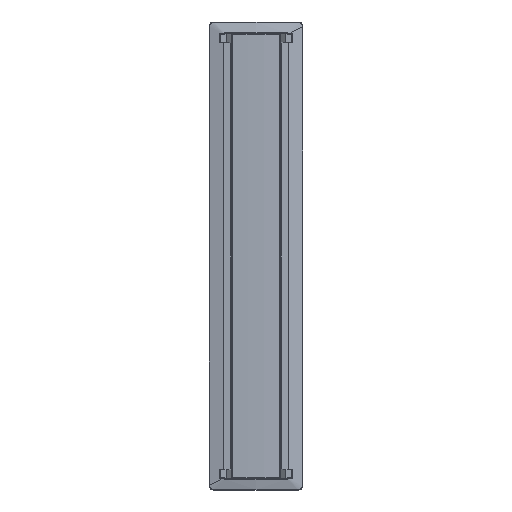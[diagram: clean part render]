
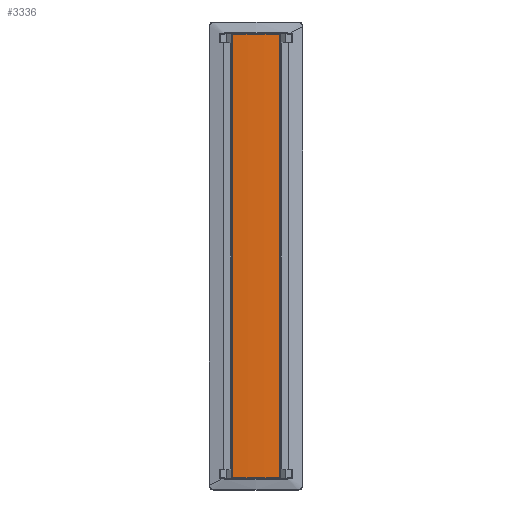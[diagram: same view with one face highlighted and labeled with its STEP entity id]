
A CAD part, front view. The second image highlights one B-rep face of the part: STEP entity #3336.
In plain terms, the highlighted cylindrical face has radius 2027 mm (diameter 4054 mm), a partial arc.
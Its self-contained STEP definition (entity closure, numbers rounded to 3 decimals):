
#28 = CARTESIAN_POINT ( 'NONE',  ( 101.516, 420.544, 3811.245 ) ) ;
#196 = EDGE_CURVE ( 'NONE', #1270, #2611, #1317, .T. ) ;
#783 = ORIENTED_EDGE ( 'NONE', *, *, #3356, .T. ) ;
#833 = VERTEX_POINT ( 'NONE', #4911 ) ;
#856 = DIRECTION ( 'NONE',  ( 0., 0., -1. ) ) ;
#1270 = VERTEX_POINT ( 'NONE', #3947 ) ;
#1317 = CIRCLE ( 'NONE', #3672, 2027. ) ;
#1359 = DIRECTION ( 'NONE',  ( 0., 0., -1. ) ) ;
#1790 = VECTOR ( 'NONE', #1359, 1000. ) ;
#1846 = CARTESIAN_POINT ( 'NONE',  ( 0., 2445., -947. ) ) ;
#1880 = CARTESIAN_POINT ( 'NONE',  ( 0., 2445., 3811.245 ) ) ;
#1994 = DIRECTION ( 'NONE',  ( 0., 0., -1. ) ) ;
#2221 = CARTESIAN_POINT ( 'NONE',  ( -101.516, 420.544, 947. ) ) ;
#2611 = VERTEX_POINT ( 'NONE', #7019 ) ;
#3139 = LINE ( 'NONE', #4925, #1790 ) ;
#3298 = ORIENTED_EDGE ( 'NONE', *, *, #5467, .T. ) ;
#3336 = ADVANCED_FACE ( 'NONE', ( #7200 ), #4950, .T. ) ;
#3356 = EDGE_CURVE ( 'NONE', #833, #6308, #5935, .T. ) ;
#3406 = VECTOR ( 'NONE', #4860, 1000. ) ;
#3542 = LINE ( 'NONE', #28, #3406 ) ;
#3672 = AXIS2_PLACEMENT_3D ( 'NONE', #1846, #5380, #6065 ) ;
#3897 = ORIENTED_EDGE ( 'NONE', *, *, #196, .T. ) ;
#3947 = CARTESIAN_POINT ( 'NONE',  ( -101.516, 420.544, -947. ) ) ;
#3973 = AXIS2_PLACEMENT_3D ( 'NONE', #1880, #856, #5558 ) ;
#4372 = DIRECTION ( 'NONE',  ( 1., 0., 0. ) ) ;
#4525 = EDGE_LOOP ( 'NONE', ( #3298, #3897, #7047, #783 ) ) ;
#4860 = DIRECTION ( 'NONE',  ( 0., 0., -1. ) ) ;
#4911 = CARTESIAN_POINT ( 'NONE',  ( 101.516, 420.544, 947. ) ) ;
#4925 = CARTESIAN_POINT ( 'NONE',  ( -101.516, 420.544, 3811.245 ) ) ;
#4950 = CYLINDRICAL_SURFACE ( 'NONE', #3973, 2027. ) ;
#5380 = DIRECTION ( 'NONE',  ( 0., 0., 1. ) ) ;
#5467 = EDGE_CURVE ( 'NONE', #6308, #1270, #3139, .T. ) ;
#5558 = DIRECTION ( 'NONE',  ( -1., 0., 0. ) ) ;
#5935 = CIRCLE ( 'NONE', #6187, 2027. ) ;
#6065 = DIRECTION ( 'NONE',  ( -1., 0., 0. ) ) ;
#6187 = AXIS2_PLACEMENT_3D ( 'NONE', #7315, #1994, #4372 ) ;
#6308 = VERTEX_POINT ( 'NONE', #2221 ) ;
#6467 = EDGE_CURVE ( 'NONE', #833, #2611, #3542, .T. ) ;
#7019 = CARTESIAN_POINT ( 'NONE',  ( 101.516, 420.544, -947. ) ) ;
#7047 = ORIENTED_EDGE ( 'NONE', *, *, #6467, .F. ) ;
#7200 = FACE_OUTER_BOUND ( 'NONE', #4525, .T. ) ;
#7315 = CARTESIAN_POINT ( 'NONE',  ( 0., 2445., 947. ) ) ;
